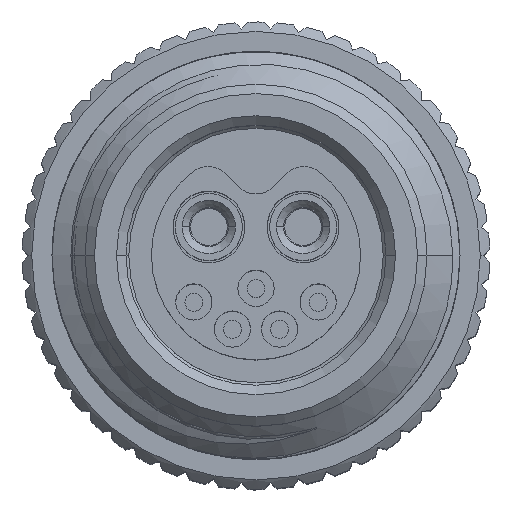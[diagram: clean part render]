
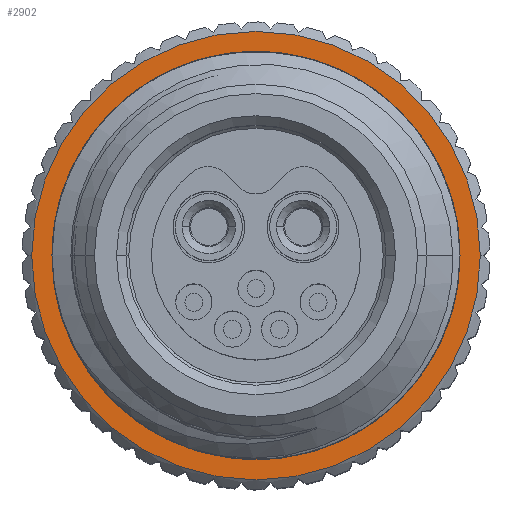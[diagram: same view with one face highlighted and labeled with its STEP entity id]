
A CAD part, top view. The second image highlights one B-rep face of the part: STEP entity #2902.
In plain terms, the highlighted planar face has unit normal (0, 0, 1).
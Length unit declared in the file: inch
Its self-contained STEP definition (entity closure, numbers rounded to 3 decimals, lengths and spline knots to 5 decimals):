
#52 = CARTESIAN_POINT ( 'NONE',  ( 0., 0., 0.048 ) ) ;
#64 = CIRCLE ( 'NONE', #4683, 0.175 ) ;
#288 = DIRECTION ( 'NONE',  ( 1., 0., 0. ) ) ;
#1463 = CARTESIAN_POINT ( 'NONE',  ( 0.238, 0., 0.048 ) ) ;
#1584 = FACE_BOUND ( 'NONE', #10916, .T. ) ;
#1637 = EDGE_CURVE ( 'NONE', #7642, #10481, #8007, .T. ) ;
#2902 = ADVANCED_FACE ( 'NONE', ( #13161, #1584 ), #12368, .T. ) ;
#3010 = CARTESIAN_POINT ( 'NONE',  ( -0.175, 0., 0.048 ) ) ;
#3081 = DIRECTION ( 'NONE',  ( 1., 0., 0. ) ) ;
#3323 = EDGE_CURVE ( 'NONE', #5347, #10718, #4739, .T. ) ;
#3324 = CARTESIAN_POINT ( 'NONE',  ( 0.175, 0., 0.048 ) ) ;
#3431 = CARTESIAN_POINT ( 'NONE',  ( 0., 0., 0.048 ) ) ;
#4024 = CARTESIAN_POINT ( 'NONE',  ( 0., 0., 0.048 ) ) ;
#4309 = ORIENTED_EDGE ( 'NONE', *, *, #12976, .T. ) ;
#4683 = AXIS2_PLACEMENT_3D ( 'NONE', #12011, #12061, #288 ) ;
#4739 = CIRCLE ( 'NONE', #12148, 0.238 ) ;
#4892 = CIRCLE ( 'NONE', #5129, 0.238 ) ;
#5129 = AXIS2_PLACEMENT_3D ( 'NONE', #52, #9546, #3081 ) ;
#5347 = VERTEX_POINT ( 'NONE', #10200 ) ;
#5628 = DIRECTION ( 'NONE',  ( 1., 0., 0. ) ) ;
#5785 = AXIS2_PLACEMENT_3D ( 'NONE', #13340, #12857, #5885 ) ;
#5885 = DIRECTION ( 'NONE',  ( 1., 0., 0. ) ) ;
#6118 = DIRECTION ( 'NONE',  ( 0., 0., 1. ) ) ;
#6243 = EDGE_LOOP ( 'NONE', ( #8325, #4309 ) ) ;
#6869 = ORIENTED_EDGE ( 'NONE', *, *, #8236, .F. ) ;
#7642 = VERTEX_POINT ( 'NONE', #3010 ) ;
#8007 = CIRCLE ( 'NONE', #10760, 0.175 ) ;
#8236 = EDGE_CURVE ( 'NONE', #10481, #7642, #64, .T. ) ;
#8325 = ORIENTED_EDGE ( 'NONE', *, *, #3323, .T. ) ;
#9265 = DIRECTION ( 'NONE',  ( 1., 0., 0. ) ) ;
#9546 = DIRECTION ( 'NONE',  ( 0., 0., 1. ) ) ;
#10200 = CARTESIAN_POINT ( 'NONE',  ( -0.238, 0., 0.048 ) ) ;
#10481 = VERTEX_POINT ( 'NONE', #3324 ) ;
#10718 = VERTEX_POINT ( 'NONE', #1463 ) ;
#10760 = AXIS2_PLACEMENT_3D ( 'NONE', #3431, #12030, #5628 ) ;
#10916 = EDGE_LOOP ( 'NONE', ( #12415, #6869 ) ) ;
#12011 = CARTESIAN_POINT ( 'NONE',  ( 0., 0., 0.048 ) ) ;
#12030 = DIRECTION ( 'NONE',  ( 0., 0., 1. ) ) ;
#12061 = DIRECTION ( 'NONE',  ( 0., 0., 1. ) ) ;
#12148 = AXIS2_PLACEMENT_3D ( 'NONE', #4024, #6118, #9265 ) ;
#12368 = PLANE ( 'NONE',  #5785 ) ;
#12415 = ORIENTED_EDGE ( 'NONE', *, *, #1637, .F. ) ;
#12857 = DIRECTION ( 'NONE',  ( 0., 0., 1. ) ) ;
#12976 = EDGE_CURVE ( 'NONE', #10718, #5347, #4892, .T. ) ;
#13161 = FACE_OUTER_BOUND ( 'NONE', #6243, .T. ) ;
#13340 = CARTESIAN_POINT ( 'NONE',  ( 0., 0., 0.048 ) ) ;
